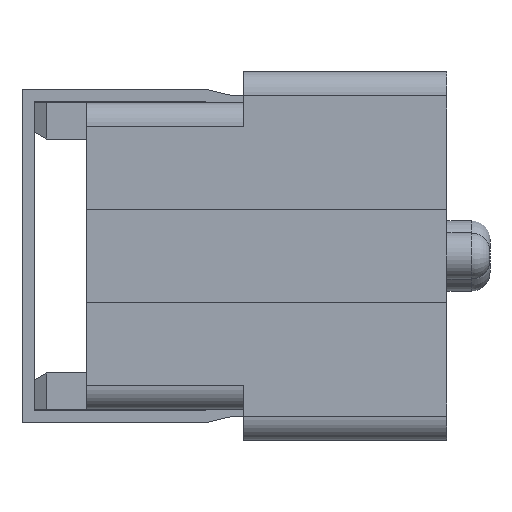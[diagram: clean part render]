
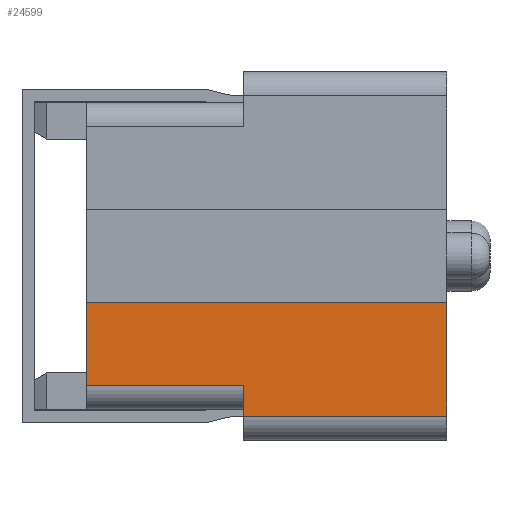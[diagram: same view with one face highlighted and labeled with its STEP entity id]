
A CAD part, left-side view. The second image highlights one B-rep face of the part: STEP entity #24599.
In plain terms, the highlighted planar face has unit normal (-1, 0, 0).
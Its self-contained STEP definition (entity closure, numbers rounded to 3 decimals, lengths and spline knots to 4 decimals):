
#4322 = VERTEX_POINT ( 'NONE', #348559 ) ;
#5279 = ORIENTED_EDGE ( 'NONE', *, *, #14126, .T. ) ;
#7066 = CARTESIAN_POINT ( 'NONE',  ( -10.8325, -3.7432, -2.6 ) ) ;
#14126 = EDGE_CURVE ( 'NONE', #365025, #114845, #55774, .T. ) ;
#24599 = ADVANCED_FACE ( 'NONE', ( #265330 ), #315634, .F. ) ;
#26351 = DIRECTION ( 'NONE',  ( 0., 0., 1. ) ) ;
#36603 = DIRECTION ( 'NONE',  ( 0., 0., -1. ) ) ;
#38036 = EDGE_CURVE ( 'NONE', #51275, #4322, #136265, .T. ) ;
#43526 = ORIENTED_EDGE ( 'NONE', *, *, #238453, .F. ) ;
#51275 = VERTEX_POINT ( 'NONE', #83581 ) ;
#55774 = LINE ( 'NONE', #228361, #112098 ) ;
#57488 = LINE ( 'NONE', #278489, #311918 ) ;
#63369 = EDGE_CURVE ( 'NONE', #51275, #114845, #261296, .T. ) ;
#68500 = CARTESIAN_POINT ( 'NONE',  ( -10.8325, 2.9568, 3. ) ) ;
#81602 = DIRECTION ( 'NONE',  ( 0., 0., 1. ) ) ;
#83581 = CARTESIAN_POINT ( 'NONE',  ( -10.8325, -3.7432, -0.75 ) ) ;
#104277 = AXIS2_PLACEMENT_3D ( 'NONE', #68500, #174457, #343465 ) ;
#108434 = DIRECTION ( 'NONE',  ( 0., 1., 0. ) ) ;
#112098 = VECTOR ( 'NONE', #282268, 1000. ) ;
#114845 = VERTEX_POINT ( 'NONE', #7066 ) ;
#123695 = ORIENTED_EDGE ( 'NONE', *, *, #38036, .T. ) ;
#136265 = LINE ( 'NONE', #249533, #228931 ) ;
#138687 = CARTESIAN_POINT ( 'NONE',  ( -10.8325, 2.1068, -2.1 ) ) ;
#172901 = CARTESIAN_POINT ( 'NONE',  ( -10.8325, -0.4432, -2.5 ) ) ;
#174457 = DIRECTION ( 'NONE',  ( 1., 0., 0. ) ) ;
#188985 = CARTESIAN_POINT ( 'NONE',  ( -10.8325, -0.4432, -2.6 ) ) ;
#195512 = VECTOR ( 'NONE', #36603, 1000. ) ;
#196752 = DIRECTION ( 'NONE',  ( 0., -1., 0. ) ) ;
#207493 = EDGE_CURVE ( 'NONE', #365025, #250079, #314067, .T. ) ;
#219975 = CARTESIAN_POINT ( 'NONE',  ( -10.8325, -0.4432, -2.1 ) ) ;
#228361 = CARTESIAN_POINT ( 'NONE',  ( -10.8325, 2.9568, -2.6 ) ) ;
#228931 = VECTOR ( 'NONE', #108434, 1000. ) ;
#238453 = EDGE_CURVE ( 'NONE', #331750, #4322, #335967, .T. ) ;
#240012 = VECTOR ( 'NONE', #81602, 1000. ) ;
#246867 = CARTESIAN_POINT ( 'NONE',  ( -10.8325, 2.1068, -3. ) ) ;
#249533 = CARTESIAN_POINT ( 'NONE',  ( -10.8325, -1.7432, -0.75 ) ) ;
#250079 = VERTEX_POINT ( 'NONE', #219975 ) ;
#250189 = VECTOR ( 'NONE', #26351, 1000. ) ;
#250890 = EDGE_CURVE ( 'NONE', #331750, #250079, #57488, .T. ) ;
#261296 = LINE ( 'NONE', #339421, #195512 ) ;
#265330 = FACE_OUTER_BOUND ( 'NONE', #340524, .T. ) ;
#278489 = CARTESIAN_POINT ( 'NONE',  ( -10.8325, 2.9568, -2.1 ) ) ;
#282268 = DIRECTION ( 'NONE',  ( 0., -1., 0. ) ) ;
#291995 = ORIENTED_EDGE ( 'NONE', *, *, #207493, .F. ) ;
#311918 = VECTOR ( 'NONE', #196752, 1000. ) ;
#314067 = LINE ( 'NONE', #172901, #250189 ) ;
#314620 = ORIENTED_EDGE ( 'NONE', *, *, #250890, .T. ) ;
#315634 = PLANE ( 'NONE',  #104277 ) ;
#318802 = ORIENTED_EDGE ( 'NONE', *, *, #63369, .F. ) ;
#331750 = VERTEX_POINT ( 'NONE', #138687 ) ;
#335967 = LINE ( 'NONE', #246867, #240012 ) ;
#339421 = CARTESIAN_POINT ( 'NONE',  ( -10.8325, -3.7432, 3. ) ) ;
#340524 = EDGE_LOOP ( 'NONE', ( #5279, #318802, #123695, #43526, #314620, #291995 ) ) ;
#343465 = DIRECTION ( 'NONE',  ( 0., 1., 0. ) ) ;
#348559 = CARTESIAN_POINT ( 'NONE',  ( -10.8325, 2.1068, -0.75 ) ) ;
#365025 = VERTEX_POINT ( 'NONE', #188985 ) ;
